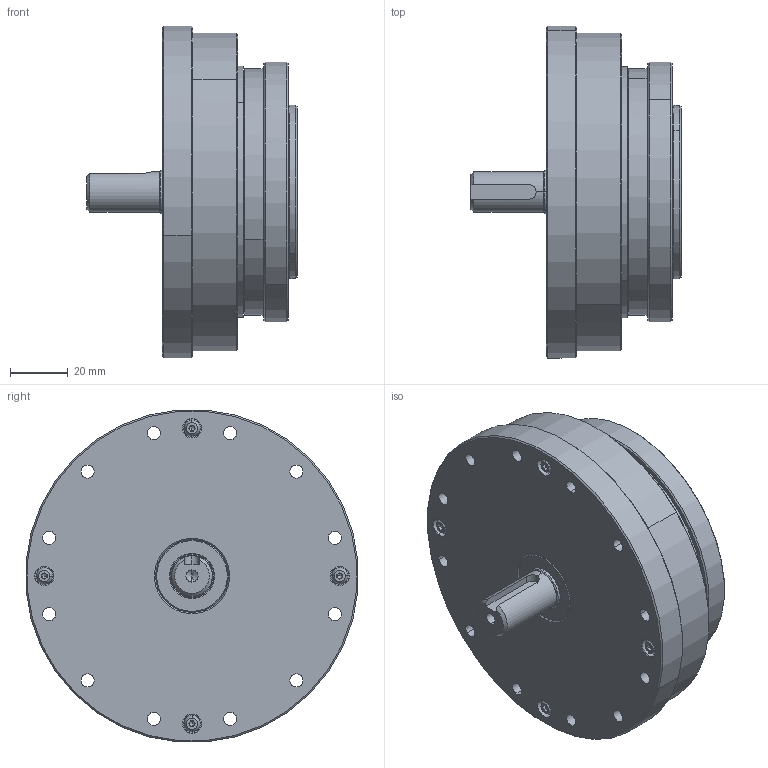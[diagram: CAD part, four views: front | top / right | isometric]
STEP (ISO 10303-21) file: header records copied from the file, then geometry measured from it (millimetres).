
FILE_DESCRIPTION (( 'STEP AP203' ), '1' );
FILE_NAME ('FHG-25-XXX-AJ.STEP', '2020-02-27T02:33:01', ( '' ), ( '' ), 'SwSTEP 2.0', 'SolidWorks 2016', '' );
FILE_SCHEMA (( 'CONFIG_CONTROL_DESIGN' ));
Length unit declared in the file: millimetre
Products named in the file (1): FHG-25-XXX-AJ
Bounding box: 72.5 x 114.56 x 114.56 mm (x, y, z)
Volume: 226737.6 mm3; surface area: 117900.9 mm2
Topology: 17 solids, 17 shells, 808 faces, 1843 edges, 1101 vertices
Faces by surface type: cylinder 352, cone 254, plane 174, torus 28
Entity records: 22780 total; most frequent: DIRECTION 4387, CARTESIAN_POINT 3733, ORIENTED_EDGE 3570, AXIS2_PLACEMENT_3D 1797, EDGE_CURVE 1785, VERTEX_POINT 1101, EDGE_LOOP 1050, CIRCLE 988
